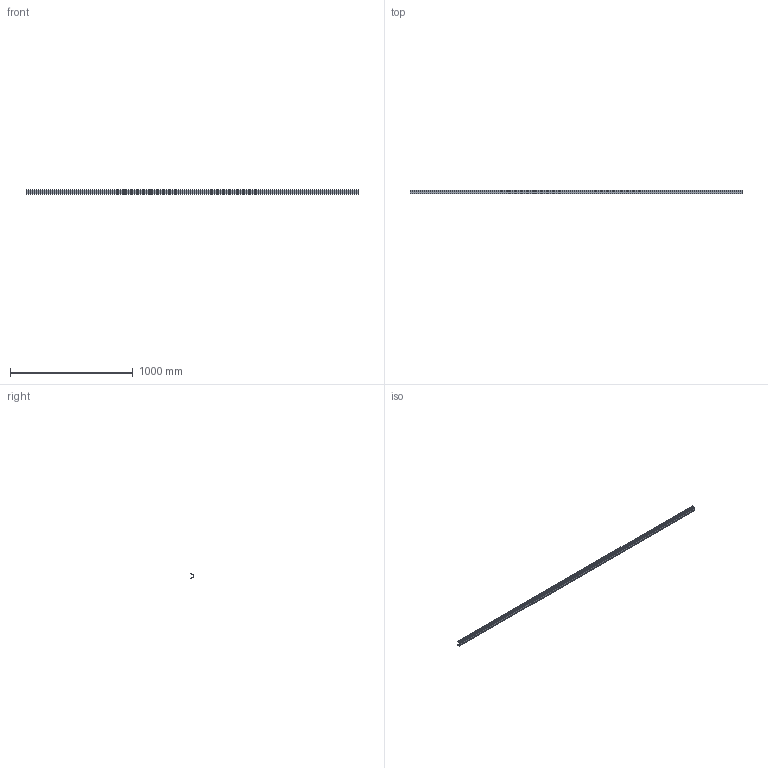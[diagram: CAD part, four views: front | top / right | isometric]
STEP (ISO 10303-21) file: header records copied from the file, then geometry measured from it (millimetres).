
FILE_DESCRIPTION( ( 'STEP AP203' ), '1' );
FILE_NAME( 'C:/Temp/Ganter_Step_05_03_2020/data/3_8/gn_646_3/Carrier profile GN 646.3-2700-A (15).stp', '2020-03-12T15:24:23', ( 'License CC BY-ND 4.0' ), ( 'CADENAS' ), ' ', 'PARTsolutions', ' ' );
FILE_SCHEMA( ( 'CONFIG_CONTROL_DESIGN' ) );
Length unit declared in the file: millimetre
Products named in the file (1): _Carrier profile GN 646.3-2700-A (15)
Bounding box: 2700 x 26.5 x 36 mm (x, y, z)
Volume: 453432.3 mm3; surface area: 567060.1 mm2
Topology: 1 solids, 1 shells, 112 faces, 330 edges, 220 vertices
Faces by surface type: plane 70, cylinder 42
Entity records: 3782 total; most frequent: CARTESIAN_POINT 663, ORIENTED_EDGE 660, DIRECTION 640, EDGE_CURVE 330, LINE 246, VECTOR 246, VERTEX_POINT 220, AXIS2_PLACEMENT_3D 197
